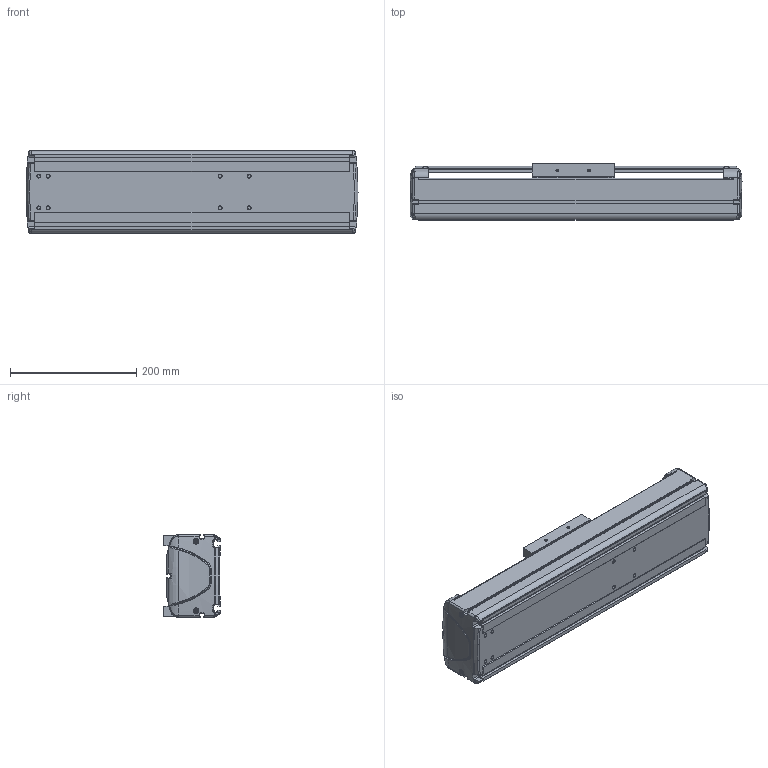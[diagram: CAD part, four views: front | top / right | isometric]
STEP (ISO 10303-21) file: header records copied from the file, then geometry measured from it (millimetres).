
FILE_DESCRIPTION((''),'2;1');
FILE_NAME('BE30E-ST-M_B-15_IGS_PRT','2017-06-17T',(' '),(''),'PRO/ENGINEER BY PARAMETRIC TECHNOLOGY CORPORATION, 2015030','PRO/ENGINEER BY PARAMETRIC TECHNOLOGY CORPORATION, 2015030','');
FILE_SCHEMA(('CONFIG_CONTROL_DESIGN'));
Length unit declared in the file: millimetre
Products named in the file (1): BE30E-ST-M_B-15_IGS_PRT
Bounding box: 525 x 89.8 x 130 mm (x, y, z)
Volume: 1897200.2 mm3; surface area: 678865.9 mm2
Topology: 2 solids, 62 shells, 1268 faces, 3368 edges, 2187 vertices
Faces by surface type: plane 592, cylinder 515, bspline 59, torus 46, cone 32, sphere 24
Entity records: 42313 total; most frequent: CARTESIAN_POINT 10776, DIRECTION 6476, ORIENTED_EDGE 6457, EDGE_CURVE 3348, AXIS2_PLACEMENT_3D 2301, VERTEX_POINT 2187, VECTOR 1874, LINE 1874
